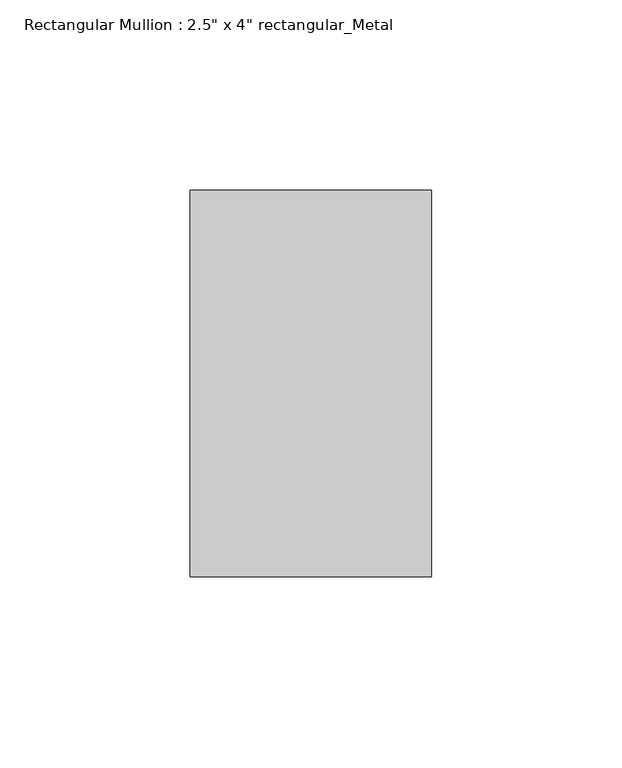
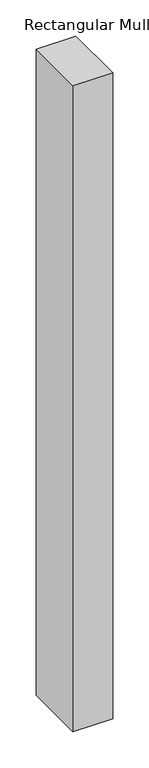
"""IFC4 building model written with IfcOpenShell, lengths in millimetres: member geometry."""

import ifcopenshell
import ifcopenshell.guid

model = None  # the IFC model being written
_history = None  # IfcOwnerHistory: only IFC2X3 demands one
_inside = {}  # id of a spatial element -> (the spatial element, [elements in it])
_under = {}  # id of a project, library or spatial element -> (it, [spatial elements below it])
_declared = {}  # id of a project -> (the project, [libraries it declares])
_typed = {}  # id of a type object -> (the type object, [elements of that type])
_made_of = {}  # id of a material, layer set ... -> (it, [elements and type objects made of it])


def new_model(schema):
    """Start an empty IFC model of exactly this schema.

    Asked for "IFC4X3", IfcOpenShell would pick the latest addendum, in which some entities
    have other attributes; the version numbers below select the first issue.
    IFC2X3 requires an IfcOwnerHistory on every rooted entity: one is made here for all.
    """
    global model, _history
    if schema == "IFC4X3":
        model = ifcopenshell.file(schema_version=(4, 3, 0, 0))
    else:
        model = ifcopenshell.file(schema=schema)
    _inside.clear()
    _under.clear()
    _declared.clear()
    _typed.clear()
    _made_of.clear()
    _history = None
    if model.schema == "IFC2X3":
        org = make("IfcOrganization", Name="unknown")
        user = make(
            "IfcPersonAndOrganization",
            ThePerson=make("IfcPerson", FamilyName="unknown"),
            TheOrganization=org,
        )
        app = make(
            "IfcApplication",
            ApplicationDeveloper=org,
            Version="unknown",
            ApplicationFullName="unknown",
            ApplicationIdentifier="unknown",
        )
        _history = make(
            "IfcOwnerHistory",
            OwningUser=user,
            OwningApplication=app,
            ChangeAction="ADDED",
            CreationDate=0,
        )
    return model


def make(cls, **values):
    """One entity of the class cls with the attributes given. An attribute that is None is left unset."""
    return model.create_entity(
        cls, **{name: value for name, value in values.items() if value is not None}
    )


def rooted(cls, **values):
    """An entity with a GlobalId (a new one), such as an element, a storey or a relation."""
    return make(cls, GlobalId=ifcopenshell.guid.new(), OwnerHistory=_history, **values)


def si_unit(unit_type, name, prefix=None):
    """IfcSIUnit, for example si_unit("LENGTHUNIT", "METRE", prefix="MILLI")."""
    return make("IfcSIUnit", UnitType=unit_type, Prefix=prefix, Name=name)


def assignment(units):
    """IfcUnitAssignment: the units of a project."""
    return None if units is None else make("IfcUnitAssignment", Units=units)


def point(xyz):
    """IfcCartesianPoint."""
    return None if xyz is None else make("IfcCartesianPoint", Coordinates=xyz)


def direction(xyz):
    """IfcDirection."""
    return None if xyz is None else make("IfcDirection", DirectionRatios=xyz)


def frame(location, z_axis=None, x_axis=None):
    """IfcAxis2Placement3D, a coordinate frame: its origin and axes. An axis left out is left unset."""
    return make(
        "IfcAxis2Placement3D",
        Location=point(location),
        Axis=direction(z_axis),
        RefDirection=direction(x_axis),
    )


def origin():
    """The frame at (0, 0, 0) with its axes left unset."""
    return frame((0.0, 0.0, 0.0))


def place(relative_to, where):
    """IfcLocalPlacement: puts the frame where relative to a parent placement (None: the world)."""
    return make(
        "IfcLocalPlacement", PlacementRelTo=relative_to, RelativePlacement=where
    )


def context(
    kind, dimensions, precision=None, world=None, true_north=None, identifier=None
):
    """IfcGeometricRepresentationContext, for example the 3D "Model" context."""
    return make(
        "IfcGeometricRepresentationContext",
        ContextIdentifier=identifier,
        ContextType=kind,
        CoordinateSpaceDimension=dimensions,
        Precision=precision,
        WorldCoordinateSystem=world,
        TrueNorth=true_north,
    )


def project(units=None, contexts=None):
    """IfcProject with its units and contexts."""
    return rooted(
        "IfcProject",
        Name="project",
        RepresentationContexts=contexts,
        UnitsInContext=assignment(units),
    )


def spatial(cls, under=None, at=None, **own):
    """A site, building, storey or space (cls), placed at a placement, below another one or the project."""
    s = rooted(cls, ObjectPlacement=at, **own)
    if under is not None:
        _under.setdefault(under.id(), (under, []))[1].append(s)
    return s


def polyline(points):
    """IfcPolyline through the points."""
    return make("IfcPolyline", Points=[point(p) for p in points])


def outline(outer, holes=None, kind="AREA"):
    """IfcArbitraryClosedProfileDef: a profile drawn as a closed curve; with holes, ...WithVoids."""
    if holes is None:
        return make("IfcArbitraryClosedProfileDef", ProfileType=kind, OuterCurve=outer)
    return make(
        "IfcArbitraryProfileDefWithVoids",
        ProfileType=kind,
        OuterCurve=outer,
        InnerCurves=holes,
    )


def extrude(swept, where, along, depth):
    """IfcExtrudedAreaSolid: the profile swept, set in the frame where, extruded along a direction by depth."""
    return make(
        "IfcExtrudedAreaSolid",
        SweptArea=swept,
        Position=where,
        ExtrudedDirection=direction(along),
        Depth=depth,
    )


def shape(context_of_items, identifier, shape_type, items):
    """IfcShapeRepresentation: the items that make up one representation, for example the "Body"."""
    return make(
        "IfcShapeRepresentation",
        ContextOfItems=context_of_items,
        RepresentationIdentifier=identifier,
        RepresentationType=shape_type,
        Items=items,
    )


def source(mapping_origin, context_of_items, identifier, shape_type, items):
    """IfcRepresentationMap: a shape defined once, which mapped items show again and again."""
    return make(
        "IfcRepresentationMap",
        MappingOrigin=mapping_origin,
        MappedRepresentation=shape(context_of_items, identifier, shape_type, items),
    )


def transform(
    local_origin,
    x_axis=None,
    y_axis=None,
    z_axis=None,
    scale=None,
    scale2=None,
    scale3=None,
    uniform=True,
):
    """IfcCartesianTransformationOperator3D, or its non-uniform kind. x_axis, y_axis, z_axis: its Axis1, 2, 3."""
    if uniform:
        return make(
            "IfcCartesianTransformationOperator3D",
            Axis1=direction(x_axis),
            Axis2=direction(y_axis),
            LocalOrigin=point(local_origin),
            Scale=scale,
            Axis3=direction(z_axis),
        )
    return make(
        "IfcCartesianTransformationOperator3DnonUniform",
        Axis1=direction(x_axis),
        Axis2=direction(y_axis),
        LocalOrigin=point(local_origin),
        Scale=scale,
        Axis3=direction(z_axis),
        Scale2=scale2,
        Scale3=scale3,
    )


def mapped(mapping_source, mapping_target):
    """IfcMappedItem: shows the shape of a source again, moved by a transform."""
    return make(
        "IfcMappedItem", MappingSource=mapping_source, MappingTarget=mapping_target
    )


def made_of(thing, what):
    """Note that an element or type object is made of a material, layer set ...; save() writes the relation."""
    if what is not None:
        _made_of.setdefault(what.id(), (what, []))[1].append(thing)
    return thing


def element(
    cls,
    number,
    at=None,
    inside=None,
    cuts=None,
    type_object=None,
    material=None,
    context=None,
    identifier="Body",
    shape_type=None,
    held_by="IfcProductDefinitionShape",
    body=None,
    shapes=None,
    **own,
):
    """One element of the class cls, such as IfcWall. Its Tag is "e" and its number.

    at: its placement. inside: the storey or other place that contains it. cuts: it is an
    opening in that element (IfcRelVoidsElement). A single representation is given by context,
    identifier, shape_type and body (its items); several are given by shapes. held_by: the class
    of the entity that holds the representations. save() writes the other relations.
    """
    e = rooted(cls, Tag="e%d" % number, ObjectPlacement=at, **own)
    if body is not None:
        shapes = [shape(context, identifier, shape_type, body)]
    if shapes is not None:
        e.Representation = make(held_by, Representations=shapes)
    if inside is not None:
        _inside.setdefault(inside.id(), (inside, []))[1].append(e)
    if cuts is not None:
        rooted(
            "IfcRelVoidsElement", RelatingBuildingElement=cuts, RelatedOpeningElement=e
        )
    if type_object is not None:
        _typed.setdefault(type_object.id(), (type_object, []))[1].append(e)
    return made_of(e, material)


def aggregate(whole, parts):
    """IfcRelAggregates: a whole, such as a stair, and the parts it consists of."""
    return rooted("IfcRelAggregates", RelatingObject=whole, RelatedObjects=parts)


def save(model, path):
    """Write the relations noted so far, then the file.

    IfcRelAggregates (storeys below a building ...), IfcRelContainedInSpatialStructure (elements
    in a storey), IfcRelDefinesByType, IfcRelAssociatesMaterial and IfcRelDeclares: one each for
    every whole, place, type object, material and project.
    """
    for whole, parts in _under.values():
        aggregate(whole, parts)
    for where, things in _inside.values():
        rooted(
            "IfcRelContainedInSpatialStructure",
            RelatedElements=things,
            RelatingStructure=where,
        )
    for kind, things in _typed.values():
        rooted("IfcRelDefinesByType", RelatedObjects=things, RelatingType=kind)
    for what, things in _made_of.values():
        rooted("IfcRelAssociatesMaterial", RelatedObjects=things, RelatingMaterial=what)
    for by, libraries in _declared.values():
        rooted("IfcRelDeclares", RelatingContext=by, RelatedDefinitions=libraries)
    model.write(path)


def member_f36d9449(model_context):
    return source(origin(), model_context, "Body", "SweptSolid", [
        extrude(outline(polyline([(0.0, 50.8), (0.0, -50.8), (-63.5, -50.8), (-63.5, 50.8), (0.0, 50.8)])), frame((0.0, 0.0, -1092.2), z_axis=(0.0, 0.0, 1.0), x_axis=(1.0, 0.0, 0.0)), (0.0, 0.0, 1.0), 1092.2),
    ])


if __name__ == "__main__":
    model = new_model("IFC4")
    model_context = context("Model", 3, world=origin())
    ifc_project = project(units=[si_unit("LENGTHUNIT", "METRE", prefix="MILLI")], contexts=[model_context])
    site = spatial("IfcSite", under=ifc_project)
    building = spatial("IfcBuilding", under=site)
    placement = place(None, origin())
    member_shape = member_f36d9449(model_context)
    element("IfcMember", 1, ObjectType="Rectangular Mullion : 2.5\" x 4\" rectangular_Metal", at=placement, inside=building, context=model_context, shape_type="MappedRepresentation", body=[
        mapped(member_shape, transform((0.0, 0.0, 0.0), x_axis=(1.0, 0.0, 0.0), y_axis=(0.0, 1.0, 0.0), z_axis=(0.0, 0.0, 1.0))),
    ])
    save(model, "model.ifc")
